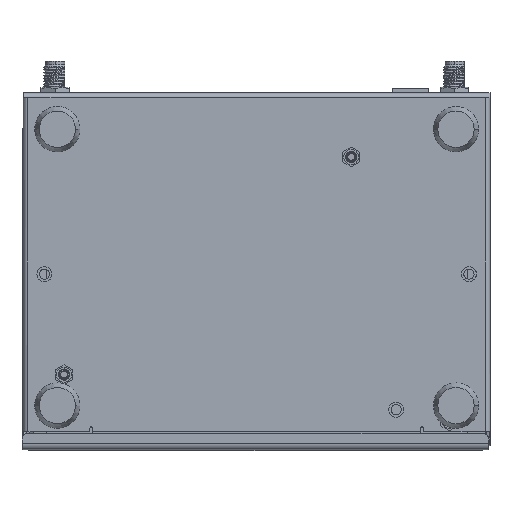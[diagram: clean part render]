
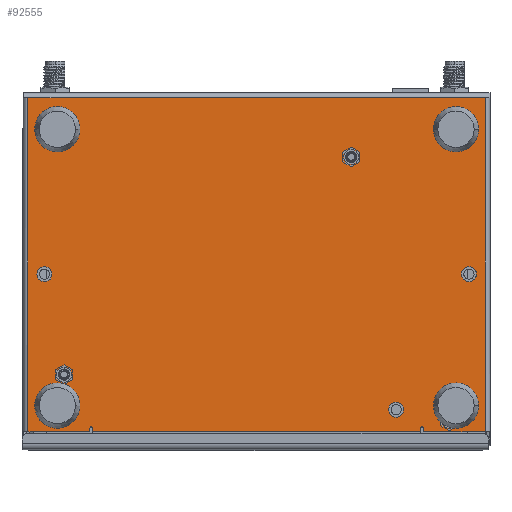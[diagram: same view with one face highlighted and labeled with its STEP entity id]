
A CAD part, front view. The second image highlights one B-rep face of the part: STEP entity #92555.
In plain terms, the highlighted planar face has unit normal (0, -1, 0).
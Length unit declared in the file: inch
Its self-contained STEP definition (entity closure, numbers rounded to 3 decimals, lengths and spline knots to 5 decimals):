
#90207=CARTESIAN_POINT('',(1.825,-1.232,-3.7));
#90208=DIRECTION('',(0.,-1.,0.));
#90209=DIRECTION('',(1.,0.,0.));
#90210=AXIS2_PLACEMENT_3D('',#90207,#90208,#90209);
#90212=CARTESIAN_POINT('',(-1.825,-1.232,-3.7));
#90213=DIRECTION('',(0.,-1.,0.));
#90214=DIRECTION('',(1.,0.,0.));
#90215=AXIS2_PLACEMENT_3D('',#90212,#90213,#90214);
#90217=DIRECTION('',(0.,0.,-1.));
#90218=VECTOR('',#90217,0.036);
#90219=CARTESIAN_POINT('',(-1.84,-1.232,-3.7));
#90220=LINE('',#90219,#90218);
#90221=DIRECTION('',(-1.,0.,0.));
#90222=VECTOR('',#90221,0.684);
#90223=CARTESIAN_POINT('',(-1.84,-1.232,-3.736));
#90224=LINE('',#90223,#90222);
#90225=DIRECTION('',(0.,0.,1.));
#90226=VECTOR('',#90225,3.686);
#90227=CARTESIAN_POINT('',(-2.524,-1.232,-3.736));
#90228=LINE('',#90227,#90226);
#90229=DIRECTION('',(1.,0.,0.));
#90230=VECTOR('',#90229,5.048);
#90231=CARTESIAN_POINT('',(-2.524,-1.232,-0.05));
#90232=LINE('',#90231,#90230);
#90233=DIRECTION('',(-1.,0.,0.));
#90234=VECTOR('',#90233,0.684);
#90235=CARTESIAN_POINT('',(2.524,-1.232,-3.736));
#90236=LINE('',#90235,#90234);
#90237=CARTESIAN_POINT('',(2.126,-1.232,-0.391));
#90238=DIRECTION('',(0.,-1.,0.));
#90239=DIRECTION('',(1.,0.,0.));
#90240=AXIS2_PLACEMENT_3D('',#90237,#90238,#90239);
#90242=CARTESIAN_POINT('',(2.126,-1.232,-0.391));
#90243=DIRECTION('',(0.,-1.,0.));
#90244=DIRECTION('',(-1.,0.,0.));
#90245=AXIS2_PLACEMENT_3D('',#90242,#90243,#90244);
#90247=CARTESIAN_POINT('',(-2.126,-1.232,-0.391));
#90248=DIRECTION('',(0.,-1.,0.));
#90249=DIRECTION('',(1.,0.,0.));
#90250=AXIS2_PLACEMENT_3D('',#90247,#90248,#90249);
#90252=CARTESIAN_POINT('',(-2.126,-1.232,-0.391));
#90253=DIRECTION('',(0.,-1.,0.));
#90254=DIRECTION('',(-1.,0.,0.));
#90255=AXIS2_PLACEMENT_3D('',#90252,#90253,#90254);
#90257=CARTESIAN_POINT('',(-2.126,-1.232,-3.108));
#90258=DIRECTION('',(0.,-1.,0.));
#90259=DIRECTION('',(1.,0.,0.));
#90260=AXIS2_PLACEMENT_3D('',#90257,#90258,#90259);
#90262=CARTESIAN_POINT('',(-2.126,-1.232,-3.108));
#90263=DIRECTION('',(0.,-1.,0.));
#90264=DIRECTION('',(-1.,0.,0.));
#90265=AXIS2_PLACEMENT_3D('',#90262,#90263,#90264);
#90267=CARTESIAN_POINT('',(2.126,-1.232,-3.619));
#90268=DIRECTION('',(0.,-1.,0.));
#90269=DIRECTION('',(1.,0.,0.));
#90270=AXIS2_PLACEMENT_3D('',#90267,#90268,#90269);
#90272=CARTESIAN_POINT('',(2.126,-1.232,-3.619));
#90273=DIRECTION('',(0.,-1.,0.));
#90274=DIRECTION('',(-1.,0.,0.));
#90275=AXIS2_PLACEMENT_3D('',#90272,#90273,#90274);
#90277=CARTESIAN_POINT('',(1.043,-1.232,-0.706));
#90278=DIRECTION('',(0.,-1.,0.));
#90279=DIRECTION('',(1.,0.,0.));
#90280=AXIS2_PLACEMENT_3D('',#90277,#90278,#90279);
#90282=CARTESIAN_POINT('',(1.043,-1.232,-0.706));
#90283=DIRECTION('',(0.,-1.,0.));
#90284=DIRECTION('',(-1.,0.,0.));
#90285=AXIS2_PLACEMENT_3D('',#90282,#90283,#90284);
#90287=CARTESIAN_POINT('',(-2.3425,-1.232,-2.));
#90288=DIRECTION('',(0.,-1.,0.));
#90289=DIRECTION('',(-1.,0.,0.));
#90290=AXIS2_PLACEMENT_3D('',#90287,#90288,#90289);
#90292=CARTESIAN_POINT('',(-2.3425,-1.232,-2.));
#90293=DIRECTION('',(0.,-1.,0.));
#90294=DIRECTION('',(1.,0.,0.));
#90295=AXIS2_PLACEMENT_3D('',#90292,#90293,#90294);
#90297=CARTESIAN_POINT('',(2.3425,-1.232,-2.));
#90298=DIRECTION('',(0.,-1.,0.));
#90299=DIRECTION('',(-1.,0.,0.));
#90300=AXIS2_PLACEMENT_3D('',#90297,#90298,#90299);
#90302=CARTESIAN_POINT('',(2.3425,-1.232,-2.));
#90303=DIRECTION('',(0.,-1.,0.));
#90304=DIRECTION('',(1.,0.,0.));
#90305=AXIS2_PLACEMENT_3D('',#90302,#90303,#90304);
#90307=CARTESIAN_POINT('',(1.539,-1.232,-3.495));
#90308=DIRECTION('',(0.,-1.,0.));
#90309=DIRECTION('',(1.,0.,0.));
#90310=AXIS2_PLACEMENT_3D('',#90307,#90308,#90309);
#90312=CARTESIAN_POINT('',(1.539,-1.232,-3.495));
#90313=DIRECTION('',(0.,-1.,0.));
#90314=DIRECTION('',(-1.,0.,0.));
#90315=AXIS2_PLACEMENT_3D('',#90312,#90313,#90314);
#90317=DIRECTION('',(0.,0.,-1.));
#90318=VECTOR('',#90317,0.036);
#90319=CARTESIAN_POINT('',(1.84,-1.232,-3.7));
#90320=LINE('',#90319,#90318);
#90350=DIRECTION('',(0.,0.,1.));
#90351=VECTOR('',#90350,3.686);
#90352=CARTESIAN_POINT('',(2.524,-1.232,-3.736));
#90353=LINE('',#90352,#90351);
#90698=DIRECTION('',(0.,0.,-1.));
#90699=VECTOR('',#90698,0.036);
#90700=CARTESIAN_POINT('',(-1.81,-1.232,-3.7));
#90701=LINE('',#90700,#90699);
#90710=DIRECTION('',(1.,0.,0.));
#90711=VECTOR('',#90710,3.62);
#90712=CARTESIAN_POINT('',(-1.81,-1.232,-3.736));
#90713=LINE('',#90712,#90711);
#90722=DIRECTION('',(0.,0.,1.));
#90723=VECTOR('',#90722,0.036);
#90724=CARTESIAN_POINT('',(1.81,-1.232,-3.736));
#90725=LINE('',#90724,#90723);
#91169=CARTESIAN_POINT('',(-2.524,-1.232,-0.05));
#91170=VERTEX_POINT('',#91169);
#91177=CARTESIAN_POINT('',(-2.524,-1.232,-3.736));
#91178=VERTEX_POINT('',#91177);
#91229=CARTESIAN_POINT('',(-1.84,-1.232,-3.736));
#91231=VERTEX_POINT('',#91229);
#91233=CARTESIAN_POINT('',(2.524,-1.232,-3.736));
#91235=VERTEX_POINT('',#91233);
#91237=CARTESIAN_POINT('',(-1.84,-1.232,-3.7));
#91239=VERTEX_POINT('',#91237);
#91240=CARTESIAN_POINT('',(1.84,-1.232,-3.7));
#91241=CARTESIAN_POINT('',(1.84,-1.232,-3.736));
#91242=VERTEX_POINT('',#91240);
#91243=VERTEX_POINT('',#91241);
#91244=CARTESIAN_POINT('',(1.81,-1.232,-3.7));
#91245=VERTEX_POINT('',#91244);
#91246=CARTESIAN_POINT('',(1.81,-1.232,-3.736));
#91247=VERTEX_POINT('',#91246);
#91248=CARTESIAN_POINT('',(-1.81,-1.232,-3.7));
#91249=CARTESIAN_POINT('',(-1.81,-1.232,-3.736));
#91250=VERTEX_POINT('',#91248);
#91251=VERTEX_POINT('',#91249);
#91252=CARTESIAN_POINT('',(2.524,-1.232,-0.05));
#91253=VERTEX_POINT('',#91252);
#91254=CARTESIAN_POINT('',(2.209,-1.232,-0.391));
#91255=CARTESIAN_POINT('',(2.043,-1.232,-0.391));
#91256=VERTEX_POINT('',#91254);
#91257=VERTEX_POINT('',#91255);
#91258=CARTESIAN_POINT('',(-2.043,-1.232,-0.391));
#91259=CARTESIAN_POINT('',(-2.209,-1.232,-0.391));
#91260=VERTEX_POINT('',#91258);
#91261=VERTEX_POINT('',#91259);
#91262=CARTESIAN_POINT('',(-2.043,-1.232,-3.108));
#91263=CARTESIAN_POINT('',(-2.209,-1.232,-3.108));
#91264=VERTEX_POINT('',#91262);
#91265=VERTEX_POINT('',#91263);
#91266=CARTESIAN_POINT('',(2.209,-1.232,-3.619));
#91267=CARTESIAN_POINT('',(2.043,-1.232,-3.619));
#91268=VERTEX_POINT('',#91266);
#91269=VERTEX_POINT('',#91267);
#91270=CARTESIAN_POINT('',(1.126,-1.232,-0.706));
#91271=CARTESIAN_POINT('',(0.96,-1.232,-0.706));
#91272=VERTEX_POINT('',#91270);
#91273=VERTEX_POINT('',#91271);
#91274=CARTESIAN_POINT('',(-2.4255,-1.232,-2.));
#91275=CARTESIAN_POINT('',(-2.2595,-1.232,-2.));
#91276=VERTEX_POINT('',#91274);
#91277=VERTEX_POINT('',#91275);
#91278=CARTESIAN_POINT('',(2.2595,-1.232,-2.));
#91279=CARTESIAN_POINT('',(2.4255,-1.232,-2.));
#91280=VERTEX_POINT('',#91278);
#91281=VERTEX_POINT('',#91279);
#91282=CARTESIAN_POINT('',(1.622,-1.232,-3.495));
#91283=CARTESIAN_POINT('',(1.456,-1.232,-3.495));
#91284=VERTEX_POINT('',#91282);
#91285=VERTEX_POINT('',#91283);
#92480=CARTESIAN_POINT('',(0.,-1.232,-1.893));
#92481=DIRECTION('',(0.,1.,0.));
#92482=DIRECTION('',(0.,0.,-1.));
#92483=AXIS2_PLACEMENT_3D('',#92480,#92481,#92482);
#92484=PLANE('',#92483);
#92486=ORIENTED_EDGE('',*,*,#92485,.F.);
#92488=ORIENTED_EDGE('',*,*,#92487,.T.);
#92490=ORIENTED_EDGE('',*,*,#92489,.F.);
#92492=ORIENTED_EDGE('',*,*,#92491,.F.);
#92494=ORIENTED_EDGE('',*,*,#92493,.F.);
#92496=ORIENTED_EDGE('',*,*,#92495,.T.);
#92497=ORIENTED_EDGE('',*,*,#92470,.T.);
#92498=ORIENTED_EDGE('',*,*,#92460,.T.);
#92499=ORIENTED_EDGE('',*,*,#92239,.T.);
#92500=ORIENTED_EDGE('',*,*,#91647,.T.);
#92502=ORIENTED_EDGE('',*,*,#92501,.F.);
#92504=ORIENTED_EDGE('',*,*,#92503,.T.);
#92505=EDGE_LOOP('',(#92486,#92488,#92490,#92492,#92494,#92496,#92497,#92498,
#92499,#92500,#92502,#92504));
#92506=FACE_OUTER_BOUND('',#92505,.F.);
#92508=ORIENTED_EDGE('',*,*,#92507,.T.);
#92510=ORIENTED_EDGE('',*,*,#92509,.T.);
#92511=EDGE_LOOP('',(#92508,#92510));
#92512=FACE_BOUND('',#92511,.F.);
#92514=ORIENTED_EDGE('',*,*,#92513,.T.);
#92516=ORIENTED_EDGE('',*,*,#92515,.T.);
#92517=EDGE_LOOP('',(#92514,#92516));
#92518=FACE_BOUND('',#92517,.F.);
#92520=ORIENTED_EDGE('',*,*,#92519,.T.);
#92522=ORIENTED_EDGE('',*,*,#92521,.T.);
#92523=EDGE_LOOP('',(#92520,#92522));
#92524=FACE_BOUND('',#92523,.F.);
#92526=ORIENTED_EDGE('',*,*,#92525,.T.);
#92528=ORIENTED_EDGE('',*,*,#92527,.T.);
#92529=EDGE_LOOP('',(#92526,#92528));
#92530=FACE_BOUND('',#92529,.F.);
#92532=ORIENTED_EDGE('',*,*,#92531,.T.);
#92534=ORIENTED_EDGE('',*,*,#92533,.T.);
#92535=EDGE_LOOP('',(#92532,#92534));
#92536=FACE_BOUND('',#92535,.F.);
#92538=ORIENTED_EDGE('',*,*,#92537,.T.);
#92540=ORIENTED_EDGE('',*,*,#92539,.T.);
#92541=EDGE_LOOP('',(#92538,#92540));
#92542=FACE_BOUND('',#92541,.F.);
#92544=ORIENTED_EDGE('',*,*,#92543,.T.);
#92546=ORIENTED_EDGE('',*,*,#92545,.T.);
#92547=EDGE_LOOP('',(#92544,#92546));
#92548=FACE_BOUND('',#92547,.F.);
#92550=ORIENTED_EDGE('',*,*,#92549,.T.);
#92552=ORIENTED_EDGE('',*,*,#92551,.T.);
#92553=EDGE_LOOP('',(#92550,#92552));
#92554=FACE_BOUND('',#92553,.F.);
#92555=ADVANCED_FACE('',(#92506,#92512,#92518,#92524,#92530,#92536,#92542,
#92548,#92554),#92484,.F.);
#90211=CIRCLE('',#90210,0.015);
#90216=CIRCLE('',#90215,0.015);
#90241=CIRCLE('',#90240,0.083);
#90246=CIRCLE('',#90245,0.083);
#90251=CIRCLE('',#90250,0.083);
#90256=CIRCLE('',#90255,0.083);
#90261=CIRCLE('',#90260,0.083);
#90266=CIRCLE('',#90265,0.083);
#90271=CIRCLE('',#90270,0.083);
#90276=CIRCLE('',#90275,0.083);
#90281=CIRCLE('',#90280,0.083);
#90286=CIRCLE('',#90285,0.083);
#90291=CIRCLE('',#90290,0.083);
#90296=CIRCLE('',#90295,0.083);
#90301=CIRCLE('',#90300,0.083);
#90306=CIRCLE('',#90305,0.083);
#90311=CIRCLE('',#90310,0.083);
#90316=CIRCLE('',#90315,0.083);
#91647=EDGE_CURVE('',#91170,#91253,#90232,.T.);
#92239=EDGE_CURVE('',#91178,#91170,#90228,.T.);
#92460=EDGE_CURVE('',#91231,#91178,#90224,.T.);
#92470=EDGE_CURVE('',#91239,#91231,#90220,.T.);
#92485=EDGE_CURVE('',#91242,#91243,#90320,.T.);
#92487=EDGE_CURVE('',#91242,#91245,#90211,.T.);
#92489=EDGE_CURVE('',#91247,#91245,#90725,.T.);
#92491=EDGE_CURVE('',#91251,#91247,#90713,.T.);
#92493=EDGE_CURVE('',#91250,#91251,#90701,.T.);
#92495=EDGE_CURVE('',#91250,#91239,#90216,.T.);
#92501=EDGE_CURVE('',#91235,#91253,#90353,.T.);
#92503=EDGE_CURVE('',#91235,#91243,#90236,.T.);
#92507=EDGE_CURVE('',#91256,#91257,#90241,.T.);
#92509=EDGE_CURVE('',#91257,#91256,#90246,.T.);
#92513=EDGE_CURVE('',#91260,#91261,#90251,.T.);
#92515=EDGE_CURVE('',#91261,#91260,#90256,.T.);
#92519=EDGE_CURVE('',#91264,#91265,#90261,.T.);
#92521=EDGE_CURVE('',#91265,#91264,#90266,.T.);
#92525=EDGE_CURVE('',#91268,#91269,#90271,.T.);
#92527=EDGE_CURVE('',#91269,#91268,#90276,.T.);
#92531=EDGE_CURVE('',#91272,#91273,#90281,.T.);
#92533=EDGE_CURVE('',#91273,#91272,#90286,.T.);
#92537=EDGE_CURVE('',#91276,#91277,#90291,.T.);
#92539=EDGE_CURVE('',#91277,#91276,#90296,.T.);
#92543=EDGE_CURVE('',#91280,#91281,#90301,.T.);
#92545=EDGE_CURVE('',#91281,#91280,#90306,.T.);
#92549=EDGE_CURVE('',#91284,#91285,#90311,.T.);
#92551=EDGE_CURVE('',#91285,#91284,#90316,.T.);
